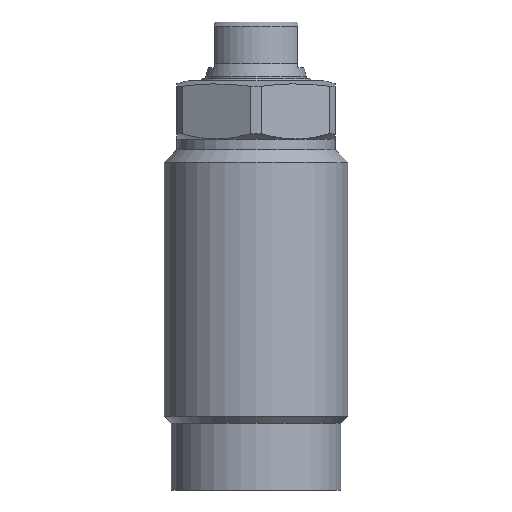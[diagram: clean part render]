
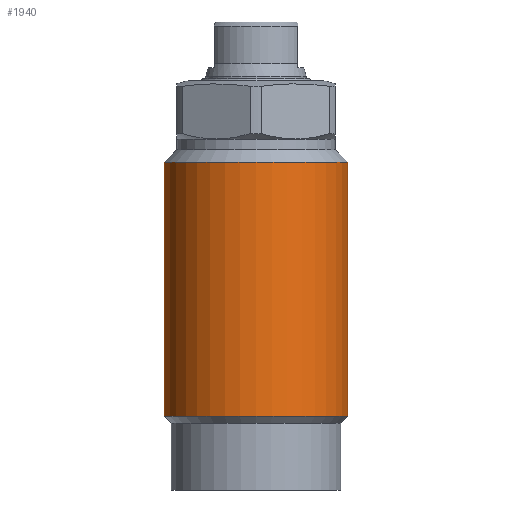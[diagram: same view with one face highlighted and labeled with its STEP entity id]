
A CAD part, front view. The second image highlights one B-rep face of the part: STEP entity #1940.
In plain terms, the highlighted cylindrical face has radius 11 mm (diameter 22 mm), a partial arc.
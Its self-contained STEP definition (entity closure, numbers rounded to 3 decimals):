
#1877=CARTESIAN_POINT('',(-11.0,0.0,-40.15));
#1878=VERTEX_POINT('',#1877);
#1886=CARTESIAN_POINT('',(11.0,0.0,-40.15));
#1887=VERTEX_POINT('',#1886);
#1894=CARTESIAN_POINT('',(0.0,0.0,-40.15));
#1895=DIRECTION('',(0.0,0.0,1.0));
#1896=DIRECTION('',(1.0,0.0,0.0));
#1897=AXIS2_PLACEMENT_3D('',#1894,#1895,#1896);
#1898=CIRCLE('',#1897,11.0);
#1899=EDGE_CURVE('no 2680',#1878,#1887,#1898,.T.);
#1909=CARTESIAN_POINT('',(-11.,0.0,-9.8));
#1910=VERTEX_POINT('',#1909);
#1911=CARTESIAN_POINT('',(-11.,-0.0,-40.15));
#1912=DIRECTION('',(0.,-0.0,1.0));
#1913=VECTOR('',#1912,1.0);
#1914=LINE('',#1911,#1913);
#1915=EDGE_CURVE('no 2690',#1878,#1910,#1914,.T.);
#1916=ORIENTED_EDGE('',*,*,#1915,.F.);
#1917=ORIENTED_EDGE('',*,*,#1899,.T.);
#1918=CARTESIAN_POINT('',(11.,0.0,-9.8));
#1919=VERTEX_POINT('',#1918);
#1920=CARTESIAN_POINT('',(11.,0.0,-40.15));
#1921=DIRECTION('',(0.,0.0,1.0));
#1922=VECTOR('',#1921,1.0);
#1923=LINE('',#1920,#1922);
#1924=EDGE_CURVE('no 2698',#1887,#1919,#1923,.T.);
#1925=ORIENTED_EDGE('',*,*,#1924,.T.);
#1926=CARTESIAN_POINT('',(0.0,0.0,-9.8));
#1927=DIRECTION('',(0.0,0.0,1.0));
#1928=DIRECTION('',(1.0,0.0,0.0));
#1929=AXIS2_PLACEMENT_3D('',#1926,#1927,#1928);
#1930=CIRCLE('',#1929,11.);
#1931=EDGE_CURVE('no 2702',#1910,#1919,#1930,.T.);
#1932=ORIENTED_EDGE('',*,*,#1931,.F.);
#1933=EDGE_LOOP('',(#1916,#1917,#1925,#1932));
#1934=FACE_OUTER_BOUND('',#1933,.T.);
#1935=CARTESIAN_POINT('',(0.0,0.0,3.426));
#1936=DIRECTION('',(0.0,0.0,1.0));
#1937=DIRECTION('',(-0.0,1.0,0.0));
#1938=AXIS2_PLACEMENT_3D('',#1935,#1936,#1937);
#1939=CYLINDRICAL_SURFACE('',#1938,11.);
#1940=ADVANCED_FACE('no 2683',(#1934),#1939,.T.);
